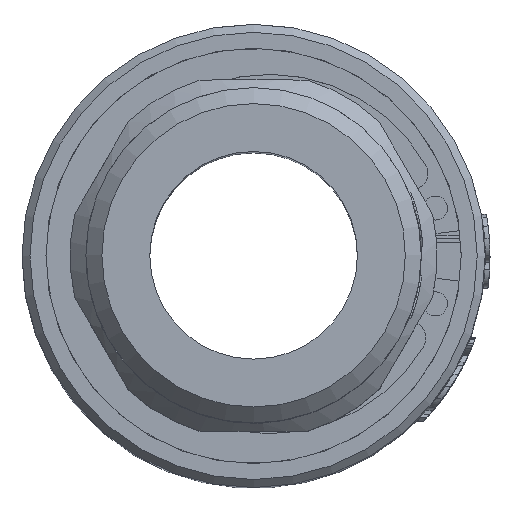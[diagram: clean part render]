
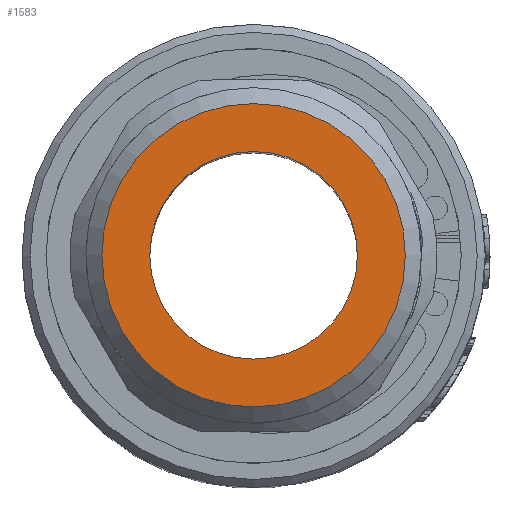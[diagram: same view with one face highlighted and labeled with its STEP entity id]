
A CAD part, top view. The second image highlights one B-rep face of the part: STEP entity #1583.
In plain terms, the highlighted planar face has unit normal (0, 0, 1).
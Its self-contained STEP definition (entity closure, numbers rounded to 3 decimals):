
#202=FACE_BOUND('',#3645,.T.);
#203=FACE_BOUND('',#3646,.T.);
#424=CIRCLE('',#16407,6.5);
#441=CIRCLE('',#16432,9.5);
#1583=ADVANCED_FACE('',(#202,#203),#2082,.T.);
#2082=PLANE('',#16434);
#3645=EDGE_LOOP('',(#8088));
#3646=EDGE_LOOP('',(#8089));
#8088=ORIENTED_EDGE('',*,*,#13139,.T.);
#8089=ORIENTED_EDGE('',*,*,#13162,.T.);
#10926=VERTEX_POINT('',#31339);
#10947=VERTEX_POINT('',#31396);
#13139=EDGE_CURVE('',#10926,#10926,#424,.T.);
#13162=EDGE_CURVE('',#10947,#10947,#441,.T.);
#16407=AXIS2_PLACEMENT_3D('',#31338,#18011,#18012);
#16432=AXIS2_PLACEMENT_3D('',#31395,#18065,#18066);
#16434=AXIS2_PLACEMENT_3D('',#31398,#18069,#18070);
#18011=DIRECTION('',(0.,0.,-1.));
#18012=DIRECTION('',(1.,0.,0.));
#18065=DIRECTION('',(0.,0.,1.));
#18066=DIRECTION('',(1.,0.,0.));
#18069=DIRECTION('',(0.,0.,1.));
#18070=DIRECTION('',(1.,0.,0.));
#31338=CARTESIAN_POINT('',(0.,0.,62.));
#31339=CARTESIAN_POINT('',(6.5,0.,62.));
#31395=CARTESIAN_POINT('',(0.,0.,62.));
#31396=CARTESIAN_POINT('',(9.5,0.,62.));
#31398=CARTESIAN_POINT('',(0.,0.,62.));
